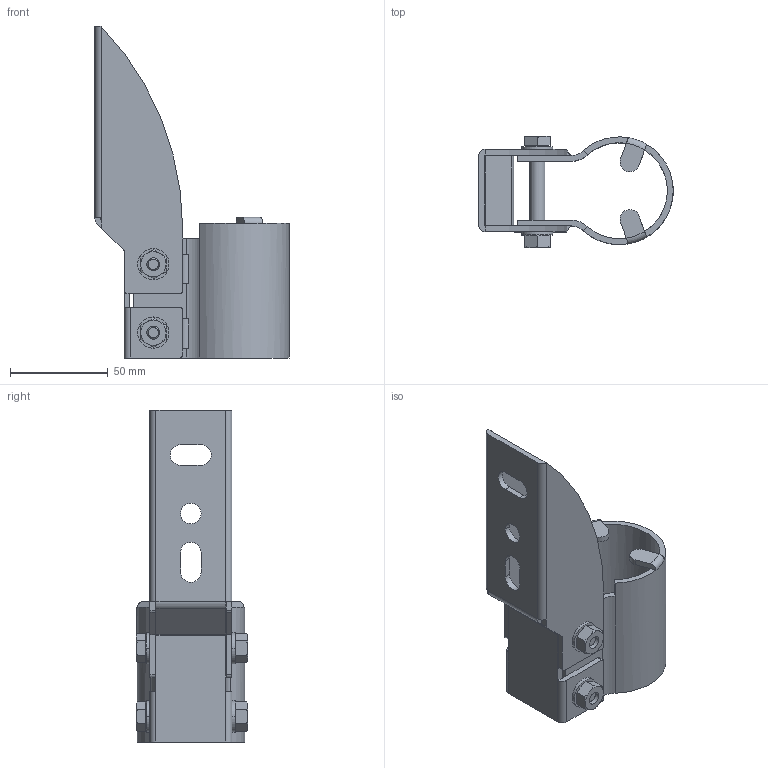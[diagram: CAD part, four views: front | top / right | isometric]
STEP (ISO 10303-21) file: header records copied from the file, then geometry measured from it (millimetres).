
FILE_DESCRIPTION(('CATIA V5 STEP Exchange'),'2;1');
FILE_NAME('\\server01\tecnico\CODICI MOVEX\3D per clienti\Daryna Itsenko\2016\25-01-2016\P40901_01.stp','2016-01-25T13:15:14+00:00',('none'),('none'),'Version 5-6 Release 2012','CATIA V5 STEP AP203','none');
FILE_SCHEMA(('CONFIG_CONTROL_DESIGN'));
Length unit declared in the file: millimetre
Products named in the file (1): P40901_01
Assembly tree (9 placements, depth 2):
  P40901_01
    #57
    #4158  x4
    #4372  x2
    #4971  x2
Bounding box: 99.58 x 57.1 x 170 mm (x, y, z)
Volume: 93227.9 mm3; surface area: 68601.9 mm2
Topology: 14 solids, 14 shells, 234 faces, 574 edges, 372 vertices
Faces by surface type: plane 120, cylinder 88, cone 16, torus 8, extrusion 2
Entity records: 5505 total; most frequent: CARTESIAN_POINT 1220, ORIENTED_EDGE 916, DIRECTION 710, EDGE_CURVE 458, AXIS2_PLACEMENT_3D 312, VERTEX_POINT 296, VECTOR 252, LINE 250
